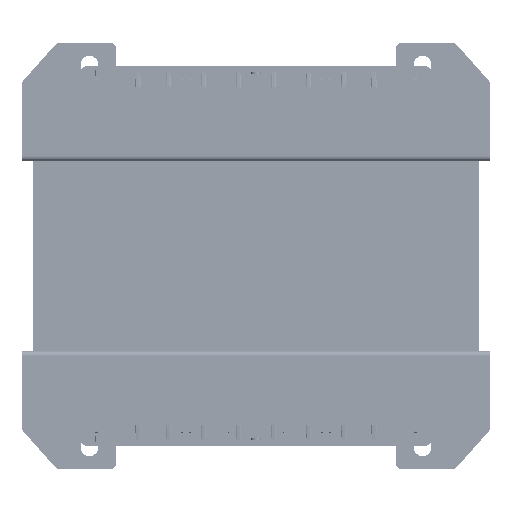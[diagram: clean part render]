
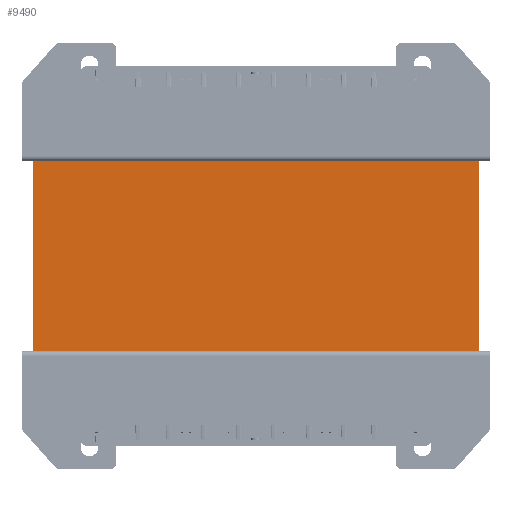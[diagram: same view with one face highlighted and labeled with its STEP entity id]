
A CAD part, front view. The second image highlights one B-rep face of the part: STEP entity #9490.
In plain terms, the highlighted planar face has unit normal (0, -1, 0).
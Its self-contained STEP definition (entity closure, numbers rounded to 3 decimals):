
#206 = VERTEX_POINT ( 'NONE', #67490 ) ;
#2290 = EDGE_CURVE ( 'NONE', #30690, #206, #34458, .T. ) ;
#9490 = ADVANCED_FACE ( 'NONE', ( #130844 ), #55032, .F. ) ;
#12905 = LINE ( 'NONE', #153978, #45159 ) ;
#20212 = VECTOR ( 'NONE', #55592, 1000. ) ;
#20320 = DIRECTION ( 'NONE',  ( 0., 0., -1. ) ) ;
#24613 = CARTESIAN_POINT ( 'NONE',  ( -76.2, -63.5, -32.5 ) ) ;
#30690 = VERTEX_POINT ( 'NONE', #127073 ) ;
#34458 = LINE ( 'NONE', #131121, #62812 ) ;
#35703 = EDGE_CURVE ( 'NONE', #147915, #68276, #12905, .T. ) ;
#43943 = AXIS2_PLACEMENT_3D ( 'NONE', #103344, #139941, #67236 ) ;
#45159 = VECTOR ( 'NONE', #20320, 1000. ) ;
#46248 = DIRECTION ( 'NONE',  ( 0., 0., -1. ) ) ;
#47765 = CARTESIAN_POINT ( 'NONE',  ( -76.2, -63.5, 32.5 ) ) ;
#55032 = PLANE ( 'NONE',  #43943 ) ;
#55592 = DIRECTION ( 'NONE',  ( 1., 0., 0. ) ) ;
#56230 = VECTOR ( 'NONE', #98231, 1000. ) ;
#62812 = VECTOR ( 'NONE', #46248, 1000. ) ;
#67236 = DIRECTION ( 'NONE',  ( 0., 0., 1. ) ) ;
#67490 = CARTESIAN_POINT ( 'NONE',  ( 76.2, -63.5, -32.5 ) ) ;
#68276 = VERTEX_POINT ( 'NONE', #90820 ) ;
#76941 = EDGE_LOOP ( 'NONE', ( #84795, #145285, #150375, #81271 ) ) ;
#81271 = ORIENTED_EDGE ( 'NONE', *, *, #35703, .T. ) ;
#84795 = ORIENTED_EDGE ( 'NONE', *, *, #131007, .T. ) ;
#90820 = CARTESIAN_POINT ( 'NONE',  ( -76.2, -63.5, -32.5 ) ) ;
#92363 = LINE ( 'NONE', #24613, #56230 ) ;
#98231 = DIRECTION ( 'NONE',  ( 1., 0., 0. ) ) ;
#103344 = CARTESIAN_POINT ( 'NONE',  ( -76.2, -63.5, 32.5 ) ) ;
#106151 = EDGE_CURVE ( 'NONE', #147915, #30690, #145461, .T. ) ;
#116072 = CARTESIAN_POINT ( 'NONE',  ( -76.2, -63.5, 32.5 ) ) ;
#127073 = CARTESIAN_POINT ( 'NONE',  ( 76.2, -63.5, 32.5 ) ) ;
#130844 = FACE_OUTER_BOUND ( 'NONE', #76941, .T. ) ;
#131007 = EDGE_CURVE ( 'NONE', #68276, #206, #92363, .T. ) ;
#131121 = CARTESIAN_POINT ( 'NONE',  ( 76.2, -63.5, 32.5 ) ) ;
#139941 = DIRECTION ( 'NONE',  ( 0., 1., 0. ) ) ;
#145285 = ORIENTED_EDGE ( 'NONE', *, *, #2290, .F. ) ;
#145461 = LINE ( 'NONE', #116072, #20212 ) ;
#147915 = VERTEX_POINT ( 'NONE', #47765 ) ;
#150375 = ORIENTED_EDGE ( 'NONE', *, *, #106151, .F. ) ;
#153978 = CARTESIAN_POINT ( 'NONE',  ( -76.2, -63.5, 32.5 ) ) ;
